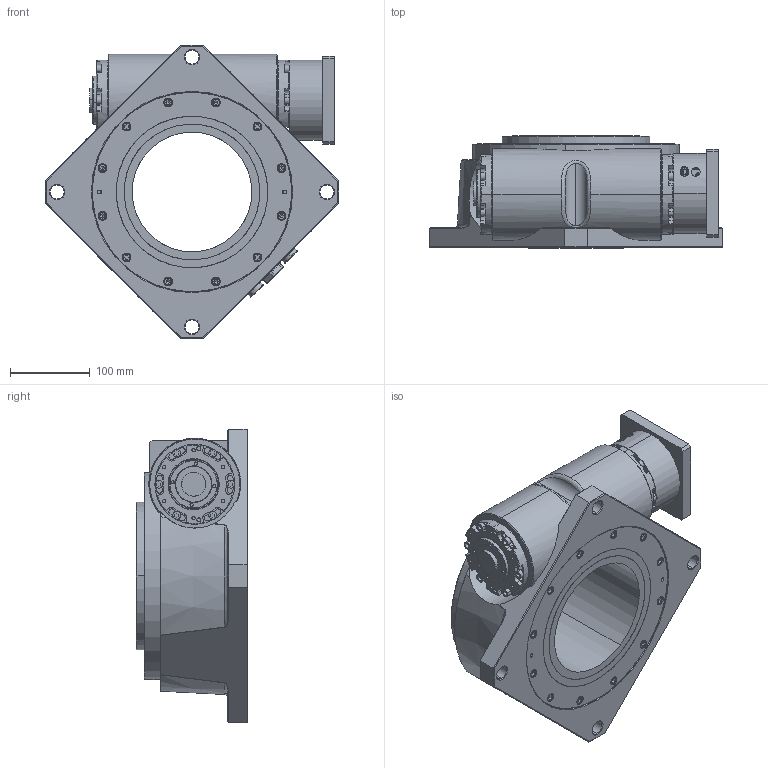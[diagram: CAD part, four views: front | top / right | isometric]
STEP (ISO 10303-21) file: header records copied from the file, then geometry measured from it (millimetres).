
FILE_DESCRIPTION (( 'STEP AP214' ), '1' );
FILE_NAME ('HC115HP-20R-80100-M6-22.STEP', '2022-06-25T02:29:08', ( 'Windows User' ), ( 'P R C' ), 'SwSTEP 2.0', 'SolidWorks 2020', '' );
FILE_SCHEMA (( 'AUTOMOTIVE_DESIGN' ));
Length unit declared in the file: millimetre
Products named in the file (1): HC115HP-20R-80100-M6-22
Bounding box: 367.7 x 140 x 367.7 mm (x, y, z)
Surface area: 558035.4 mm2 (no closed solid volume)
Topology: 0 solids, 118 shells, 1560 faces, 4586 edges, 3039 vertices
Faces by surface type: plane 768, cylinder 483, torus 204, cone 91, bspline 14
Entity records: 72766 total; most frequent: CARTESIAN_POINT 13208, DIRECTION 9540, ORIENTED_EDGE 7771, EDGE_CURVE 4538, AXIS2_PLACEMENT_3D 3568, VERTEX_POINT 3039, VECTOR 2404, LINE 2404
